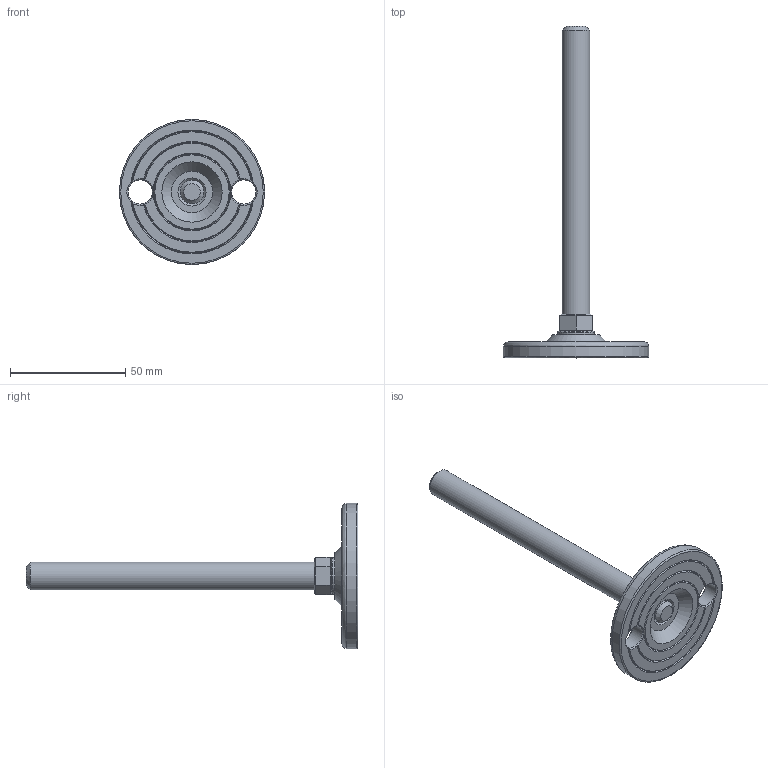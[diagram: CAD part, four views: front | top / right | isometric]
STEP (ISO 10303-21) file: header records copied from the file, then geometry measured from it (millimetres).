
FILE_DESCRIPTION(('STEP AP203'),'2;1');
FILE_NAME('15484.stp','2015-08-27T15:14:23',(''),(''),'2008.1.107','THINKDESIGN','');
FILE_SCHEMA(('CONFIG_CONTROL_DESIGN'));
Length unit declared in the file: millimetre
Bounding box: 63 x 144 x 63 mm (x, y, z)
Volume: 35580.5 mm3; surface area: 14271.6 mm2
Topology: 5 solids, 5 shells, 74 faces, 176 edges, 113 vertices
Faces by surface type: bspline 44, plane 23, cylinder 7
Full cylindrical faces by diameter (mm): 10 x1, 10.2 x1, 10.5 x2, 12 x1, 16 x1, 63 x1
Entity records: 3717 total; most frequent: CARTESIAN_POINT 1996, ORIENTED_EDGE 352, DIRECTION 314, EDGE_CURVE 176, AXIS2_PLACEMENT_3D 127, VERTEX_POINT 113, CIRCLE 97, EDGE_LOOP 81
